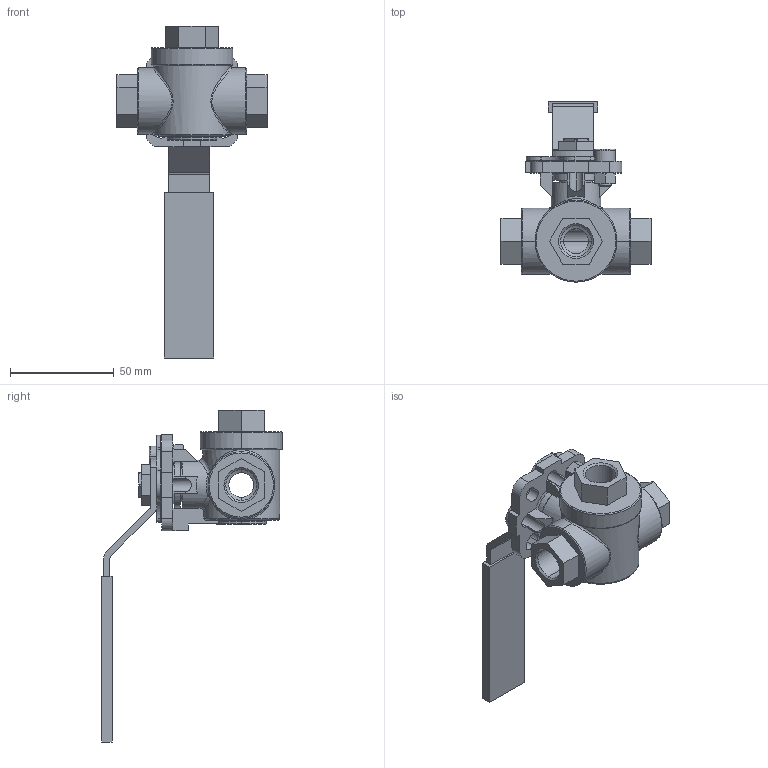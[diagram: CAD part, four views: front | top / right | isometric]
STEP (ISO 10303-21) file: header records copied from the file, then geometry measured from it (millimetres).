
FILE_DESCRIPTION (( 'STEP AP214' ), '1' );
FILE_NAME ('S57D DN10 G3_8 HB FB.STEP', '2020-06-25T06:58:09', ( '' ), ( '' ), 'SwSTEP 2.0', 'SolidWorks 2018', '' );
FILE_SCHEMA (( 'AUTOMOTIVE_DESIGN' ));
Length unit declared in the file: millimetre
Products named in the file (5): S57D DN10 G3_8 HB FB; S57D Hendel DN10 FB; S57D DN10-G3_8 FB; hex nut style 1 gradeab_din_Hexagon Nut ISO 4032 - M6 - D - N; socket head cap screw_din_DIN 912 M6 x 12 --- 12N
Assembly tree (4 placements, depth 2):
  S57D DN10 G3_8 HB FB
    S57D DN10-G3_8 FB
    S57D Hendel DN10 FB
    socket head cap screw_din_DIN 912 M6 x 12 --- 12N
    hex nut style 1 gradeab_din_Hexagon Nut ISO 4032 - M6 - D - N
Bounding box: 72.5 x 87.23 x 160.38 mm (x, y, z)
Volume: 95727.9 mm3; surface area: 34088.8 mm2
Topology: 4 solids, 4 shells, 339 faces, 873 edges, 545 vertices
Faces by surface type: plane 179, cylinder 87, cone 32, bspline 21, torus 20
Entity records: 12387 total; most frequent: CARTESIAN_POINT 3799, ORIENTED_EDGE 1742, DIRECTION 1715, EDGE_CURVE 871, AXIS2_PLACEMENT_3D 607, VERTEX_POINT 545, LINE 501, VECTOR 501
